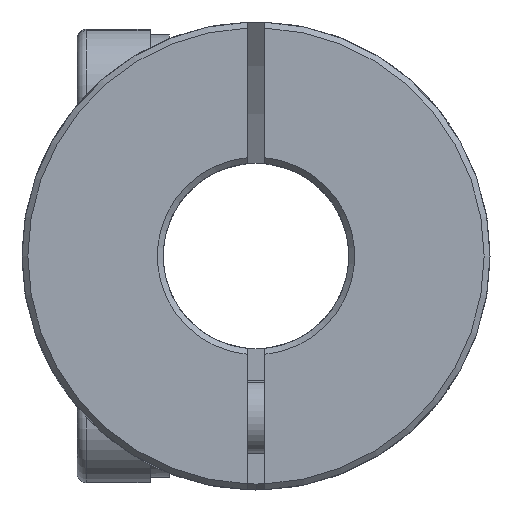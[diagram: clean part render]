
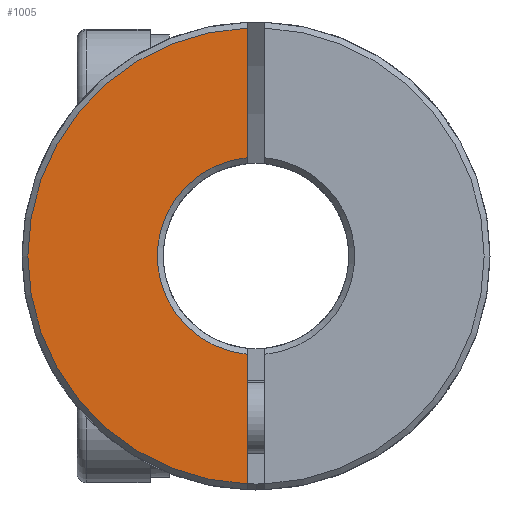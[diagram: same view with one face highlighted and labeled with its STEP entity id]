
A CAD part, front view. The second image highlights one B-rep face of the part: STEP entity #1005.
In plain terms, the highlighted planar face has unit normal (0, -1, 0).
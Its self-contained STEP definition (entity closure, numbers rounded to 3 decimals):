
#134 = FACE_OUTER_BOUND ( 'NONE', #4824, .T. ) ;
#147 = ORIENTED_EDGE ( 'NONE', *, *, #2494, .F. ) ;
#391 = CARTESIAN_POINT ( 'NONE',  ( -0.3, -15.02, 3.362 ) ) ;
#441 = DIRECTION ( 'NONE',  ( 0., 0., 1. ) ) ;
#532 = DIRECTION ( 'NONE',  ( 0., 0., -1. ) ) ;
#572 = DIRECTION ( 'NONE',  ( 0., 1., 0. ) ) ;
#1005 = ADVANCED_FACE ( 'NONE', ( #134 ), #6948, .F. ) ;
#1700 = CARTESIAN_POINT ( 'NONE',  ( -0.3, -15.02, 7.794 ) ) ;
#1859 = AXIS2_PLACEMENT_3D ( 'NONE', #3111, #572, #7264 ) ;
#1956 = CIRCLE ( 'NONE', #1859, 3.375 ) ;
#2295 = CARTESIAN_POINT ( 'NONE',  ( -0.3, -15.02, 0. ) ) ;
#2494 = EDGE_CURVE ( 'NONE', #5252, #2703, #4482, .T. ) ;
#2501 = VERTEX_POINT ( 'NONE', #1700 ) ;
#2633 = AXIS2_PLACEMENT_3D ( 'NONE', #3399, #5717, #441 ) ;
#2703 = VERTEX_POINT ( 'NONE', #3121 ) ;
#2853 = VERTEX_POINT ( 'NONE', #391 ) ;
#2910 = VECTOR ( 'NONE', #532, 1000. ) ;
#2979 = AXIS2_PLACEMENT_3D ( 'NONE', #6527, #5388, #3051 ) ;
#3051 = DIRECTION ( 'NONE',  ( 0., 0., 1. ) ) ;
#3111 = CARTESIAN_POINT ( 'NONE',  ( 0., -15.02, 0. ) ) ;
#3121 = CARTESIAN_POINT ( 'NONE',  ( -0.3, -15.02, -7.794 ) ) ;
#3122 = CARTESIAN_POINT ( 'NONE',  ( -0.3, -15.02, -3.362 ) ) ;
#3399 = CARTESIAN_POINT ( 'NONE',  ( 0., -15.02, 0. ) ) ;
#4233 = ORIENTED_EDGE ( 'NONE', *, *, #5718, .T. ) ;
#4482 = LINE ( 'NONE', #6966, #2910 ) ;
#4824 = EDGE_LOOP ( 'NONE', ( #6582, #6451, #147, #4233 ) ) ;
#5252 = VERTEX_POINT ( 'NONE', #3122 ) ;
#5388 = DIRECTION ( 'NONE',  ( 0., -1., 0. ) ) ;
#5711 = LINE ( 'NONE', #2295, #7519 ) ;
#5717 = DIRECTION ( 'NONE',  ( 0., 1., 0. ) ) ;
#5718 = EDGE_CURVE ( 'NONE', #5252, #2853, #1956, .T. ) ;
#5985 = CIRCLE ( 'NONE', #2979, 7.8 ) ;
#6451 = ORIENTED_EDGE ( 'NONE', *, *, #7330, .T. ) ;
#6527 = CARTESIAN_POINT ( 'NONE',  ( 0., -15.02, 0. ) ) ;
#6582 = ORIENTED_EDGE ( 'NONE', *, *, #6673, .F. ) ;
#6673 = EDGE_CURVE ( 'NONE', #2501, #2853, #5711, .T. ) ;
#6948 = PLANE ( 'NONE',  #2633 ) ;
#6966 = CARTESIAN_POINT ( 'NONE',  ( -0.3, -15.02, 0. ) ) ;
#7015 = DIRECTION ( 'NONE',  ( 0., 0., -1. ) ) ;
#7264 = DIRECTION ( 'NONE',  ( 0., 0., 1. ) ) ;
#7330 = EDGE_CURVE ( 'NONE', #2501, #2703, #5985, .T. ) ;
#7519 = VECTOR ( 'NONE', #7015, 1000. ) ;
